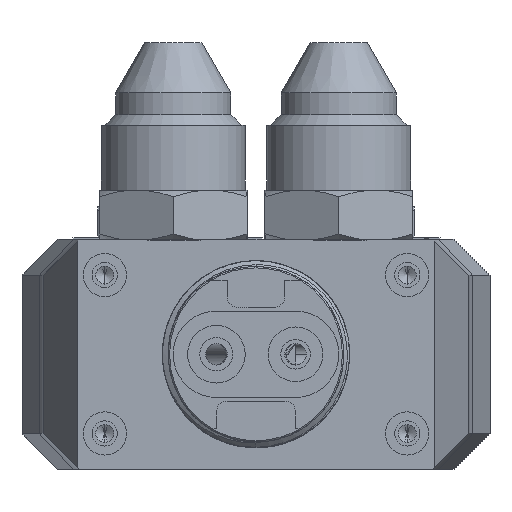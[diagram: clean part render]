
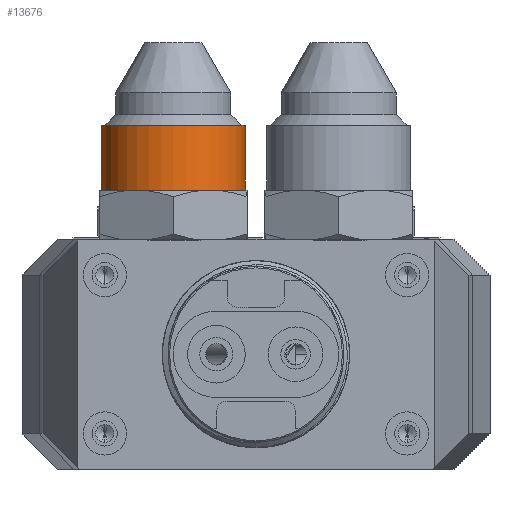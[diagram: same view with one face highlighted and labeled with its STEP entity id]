
A CAD part, front view. The second image highlights one B-rep face of the part: STEP entity #13676.
In plain terms, the highlighted cylindrical face has radius 10 mm (diameter 20 mm), a partial arc.
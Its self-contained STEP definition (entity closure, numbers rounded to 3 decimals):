
#6058 = CARTESIAN_POINT ( 'NONE',  ( -58.472, -161.12, 1030.303 ) ) ;
#7050 = DIRECTION ( 'NONE',  ( 1., 0., 0. ) ) ;
#8195 = CARTESIAN_POINT ( 'NONE',  ( -38.472, -161.12, 1030.303 ) ) ;
#8270 = AXIS2_PLACEMENT_3D ( 'NONE', #24297, #40196, #7050 ) ;
#8308 = CYLINDRICAL_SURFACE ( 'NONE', #44952, 10. ) ;
#10488 = EDGE_CURVE ( 'NONE', #38580, #44216, #18678, .T. ) ;
#10635 = CARTESIAN_POINT ( 'NONE',  ( -48.472, -161.12, 1030.303 ) ) ;
#11171 = DIRECTION ( 'NONE',  ( 0., 0., 1. ) ) ;
#11326 = EDGE_CURVE ( 'NONE', #48023, #38580, #15392, .T. ) ;
#11448 = DIRECTION ( 'NONE',  ( 1., 0., 0. ) ) ;
#12974 = CARTESIAN_POINT ( 'NONE',  ( -38.472, -161.12, 1021.303 ) ) ;
#13676 = ADVANCED_FACE ( 'NONE', ( #38915 ), #8308, .T. ) ;
#15392 = CIRCLE ( 'NONE', #8270, 10. ) ;
#16164 = VERTEX_POINT ( 'NONE', #6058 ) ;
#16763 = VECTOR ( 'NONE', #11171, 1000. ) ;
#17948 = CARTESIAN_POINT ( 'NONE',  ( -58.472, -161.12, 1052.575 ) ) ;
#18678 = LINE ( 'NONE', #32588, #16763 ) ;
#19503 = DIRECTION ( 'NONE',  ( 0., 0., -1. ) ) ;
#20846 = AXIS2_PLACEMENT_3D ( 'NONE', #10635, #19503, #11448 ) ;
#24297 = CARTESIAN_POINT ( 'NONE',  ( -48.472, -161.12, 1021.303 ) ) ;
#24831 = ORIENTED_EDGE ( 'NONE', *, *, #53143, .F. ) ;
#24895 = CARTESIAN_POINT ( 'NONE',  ( -58.472, -161.12, 1021.303 ) ) ;
#29993 = DIRECTION ( 'NONE',  ( 1., 0., 0. ) ) ;
#30764 = DIRECTION ( 'NONE',  ( 0., 0., 1. ) ) ;
#31511 = CIRCLE ( 'NONE', #20846, 10. ) ;
#32588 = CARTESIAN_POINT ( 'NONE',  ( -38.472, -161.12, 1052.575 ) ) ;
#32655 = ORIENTED_EDGE ( 'NONE', *, *, #46237, .T. ) ;
#34721 = DIRECTION ( 'NONE',  ( 0., 0., 1. ) ) ;
#38011 = LINE ( 'NONE', #17948, #51606 ) ;
#38580 = VERTEX_POINT ( 'NONE', #12974 ) ;
#38813 = ORIENTED_EDGE ( 'NONE', *, *, #11326, .T. ) ;
#38915 = FACE_OUTER_BOUND ( 'NONE', #52145, .T. ) ;
#40196 = DIRECTION ( 'NONE',  ( 0., 0., 1. ) ) ;
#42197 = ORIENTED_EDGE ( 'NONE', *, *, #10488, .T. ) ;
#44216 = VERTEX_POINT ( 'NONE', #8195 ) ;
#44952 = AXIS2_PLACEMENT_3D ( 'NONE', #55041, #34721, #29993 ) ;
#46237 = EDGE_CURVE ( 'NONE', #44216, #16164, #31511, .T. ) ;
#48023 = VERTEX_POINT ( 'NONE', #24895 ) ;
#51606 = VECTOR ( 'NONE', #30764, 1000. ) ;
#52145 = EDGE_LOOP ( 'NONE', ( #24831, #38813, #42197, #32655 ) ) ;
#53143 = EDGE_CURVE ( 'NONE', #48023, #16164, #38011, .T. ) ;
#55041 = CARTESIAN_POINT ( 'NONE',  ( -48.472, -161.12, 1052.575 ) ) ;
